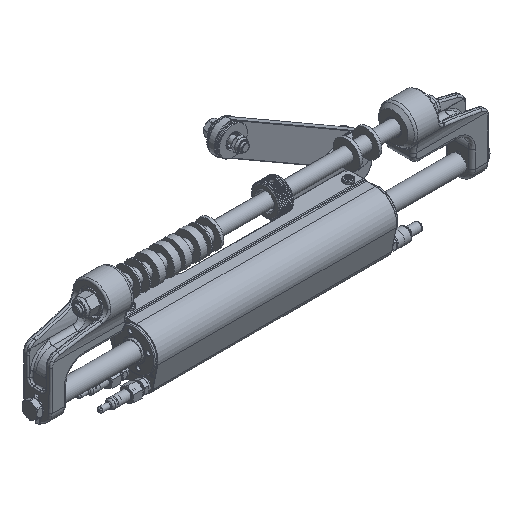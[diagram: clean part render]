
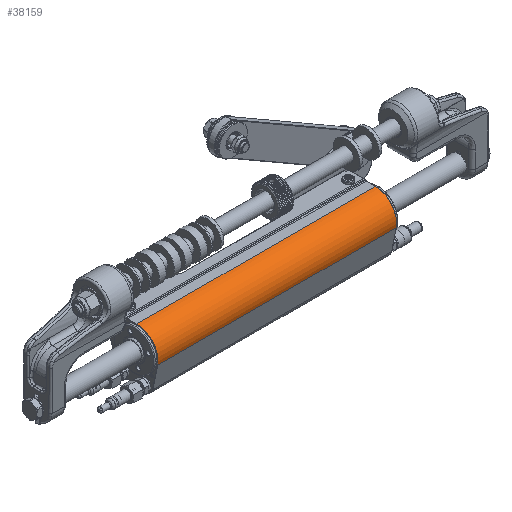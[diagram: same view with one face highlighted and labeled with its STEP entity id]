
A CAD part, isometric view. The second image highlights one B-rep face of the part: STEP entity #38159.
In plain terms, the highlighted cylindrical face has radius 25.5 mm (diameter 51 mm), a partial arc.
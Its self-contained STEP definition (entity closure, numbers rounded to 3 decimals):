
#1247=CYLINDRICAL_SURFACE('',#41595,25.5);
#1994=CIRCLE('',#41493,25.5);
#2029=CIRCLE('',#41552,25.5);
#6431=FACE_OUTER_BOUND('',#8761,.T.);
#8761=EDGE_LOOP('',(#27568,#27569,#27570,#27571));
#11411=LINE('',#59796,#14030);
#11413=LINE('',#59802,#14032);
#14030=VECTOR('',#46769,10.);
#14032=VECTOR('',#46779,10.);
#17140=VERTEX_POINT('',#59631);
#17141=VERTEX_POINT('',#59635);
#17161=VERTEX_POINT('',#59721);
#17162=VERTEX_POINT('',#59725);
#21117=EDGE_CURVE('',#17140,#17141,#1994,.T.);
#21162=EDGE_CURVE('',#17161,#17162,#2029,.T.);
#21197=EDGE_CURVE('',#17162,#17140,#11411,.T.);
#21199=EDGE_CURVE('',#17161,#17141,#11413,.T.);
#27568=ORIENTED_EDGE('',*,*,#21117,.F.);
#27569=ORIENTED_EDGE('',*,*,#21197,.F.);
#27570=ORIENTED_EDGE('',*,*,#21162,.F.);
#27571=ORIENTED_EDGE('',*,*,#21199,.T.);
#38159=ADVANCED_FACE('',(#6431),#1247,.T.);
#41493=AXIS2_PLACEMENT_3D('',#59637,#46539,#46540);
#41552=AXIS2_PLACEMENT_3D('',#59727,#46667,#46668);
#41595=AXIS2_PLACEMENT_3D('',#59803,#46780,#46781);
#46539=DIRECTION('center_axis',(-1.,0.,0.));
#46540=DIRECTION('ref_axis',(0.,-0.773,0.635));
#46667=DIRECTION('center_axis',(1.,0.,0.));
#46668=DIRECTION('ref_axis',(0.,-0.773,0.635));
#46769=DIRECTION('',(-1.,0.,0.));
#46779=DIRECTION('',(-1.,0.,0.));
#46780=DIRECTION('center_axis',(-1.,0.,0.));
#46781=DIRECTION('ref_axis',(0.,0.,1.));
#59631=CARTESIAN_POINT('',(-287.25,-25.017,-4.938));
#59635=CARTESIAN_POINT('',(-287.25,0.,25.5));
#59637=CARTESIAN_POINT('Origin',(-287.25,0.,0.));
#59721=CARTESIAN_POINT('',(-0.25,0.,25.5));
#59725=CARTESIAN_POINT('',(-0.25,-25.017,-4.938));
#59727=CARTESIAN_POINT('Origin',(-0.25,0.,0.));
#59796=CARTESIAN_POINT('',(0.,-25.017,-4.938));
#59802=CARTESIAN_POINT('',(0.,0.,25.5));
#59803=CARTESIAN_POINT('Origin',(0.,0.,0.));
